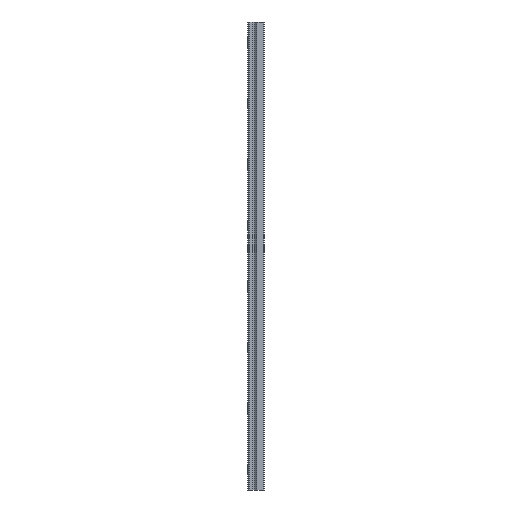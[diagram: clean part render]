
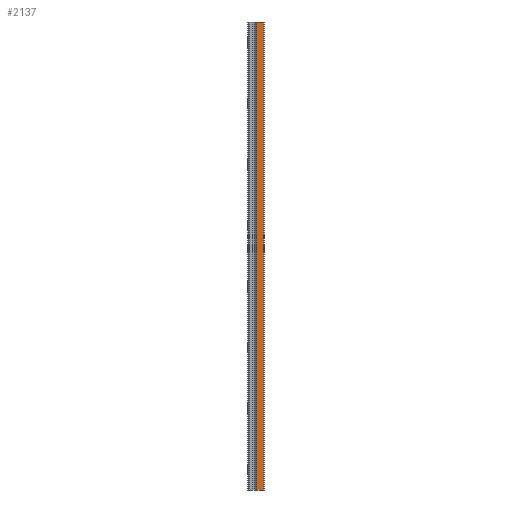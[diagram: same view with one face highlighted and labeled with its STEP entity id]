
A CAD part, left-side view. The second image highlights one B-rep face of the part: STEP entity #2137.
In plain terms, the highlighted planar face has unit normal (-1, 0, 0).
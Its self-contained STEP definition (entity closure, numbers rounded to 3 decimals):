
#41 = CARTESIAN_POINT ( 'NONE',  ( -10., 16.3, 230. ) ) ;
#95 = CARTESIAN_POINT ( 'NONE',  ( -10., 1., -230. ) ) ;
#127 = CARTESIAN_POINT ( 'NONE',  ( -10., 16.3, -230. ) ) ;
#207 = DIRECTION ( 'NONE',  ( 0., 1., 0. ) ) ;
#262 = EDGE_CURVE ( 'NONE', #1852, #1982, #1880, .T. ) ;
#370 = LINE ( 'NONE', #1381, #651 ) ;
#467 = FACE_OUTER_BOUND ( 'NONE', #1499, .T. ) ;
#547 = PLANE ( 'NONE',  #867 ) ;
#636 = ORIENTED_EDGE ( 'NONE', *, *, #262, .F. ) ;
#651 = VECTOR ( 'NONE', #1054, 1000. ) ;
#672 = VERTEX_POINT ( 'NONE', #1542 ) ;
#699 = DIRECTION ( 'NONE',  ( 0., 0., 1. ) ) ;
#747 = VECTOR ( 'NONE', #2091, 1000. ) ;
#786 = ORIENTED_EDGE ( 'NONE', *, *, #1570, .T. ) ;
#867 = AXIS2_PLACEMENT_3D ( 'NONE', #1554, #887, #207 ) ;
#883 = VERTEX_POINT ( 'NONE', #95 ) ;
#887 = DIRECTION ( 'NONE',  ( 1., 0., 0. ) ) ;
#957 = EDGE_CURVE ( 'NONE', #672, #883, #1608, .T. ) ;
#1003 = CARTESIAN_POINT ( 'NONE',  ( -10., 7.3, 230. ) ) ;
#1054 = DIRECTION ( 'NONE',  ( 0., 0., 1. ) ) ;
#1064 = DIRECTION ( 'NONE',  ( 0., -1., 0. ) ) ;
#1150 = LINE ( 'NONE', #1657, #1712 ) ;
#1381 = CARTESIAN_POINT ( 'NONE',  ( -10., 1., 230. ) ) ;
#1454 = EDGE_CURVE ( 'NONE', #672, #1852, #1150, .T. ) ;
#1499 = EDGE_LOOP ( 'NONE', ( #1707, #786, #636, #1962 ) ) ;
#1542 = CARTESIAN_POINT ( 'NONE',  ( -10., 7.3, -230. ) ) ;
#1554 = CARTESIAN_POINT ( 'NONE',  ( -10., 16.3, 230. ) ) ;
#1570 = EDGE_CURVE ( 'NONE', #883, #1982, #370, .T. ) ;
#1608 = LINE ( 'NONE', #127, #747 ) ;
#1649 = CARTESIAN_POINT ( 'NONE',  ( -10., 1., 230. ) ) ;
#1657 = CARTESIAN_POINT ( 'NONE',  ( -10., 7.3, -230. ) ) ;
#1697 = VECTOR ( 'NONE', #1064, 1000. ) ;
#1707 = ORIENTED_EDGE ( 'NONE', *, *, #957, .T. ) ;
#1712 = VECTOR ( 'NONE', #699, 1000. ) ;
#1852 = VERTEX_POINT ( 'NONE', #1003 ) ;
#1880 = LINE ( 'NONE', #41, #1697 ) ;
#1962 = ORIENTED_EDGE ( 'NONE', *, *, #1454, .F. ) ;
#1982 = VERTEX_POINT ( 'NONE', #1649 ) ;
#2091 = DIRECTION ( 'NONE',  ( 0., -1., 0. ) ) ;
#2137 = ADVANCED_FACE ( 'NONE', ( #467 ), #547, .F. ) ;
